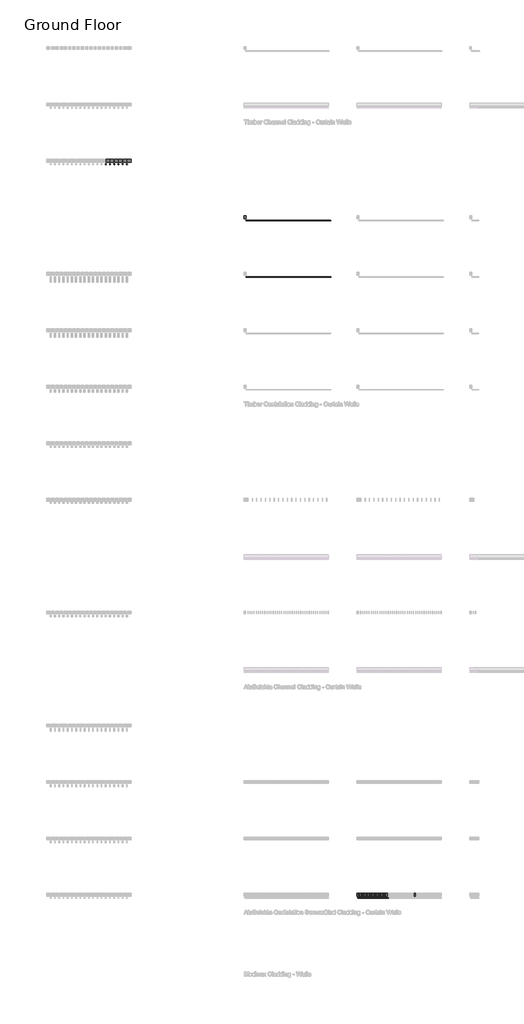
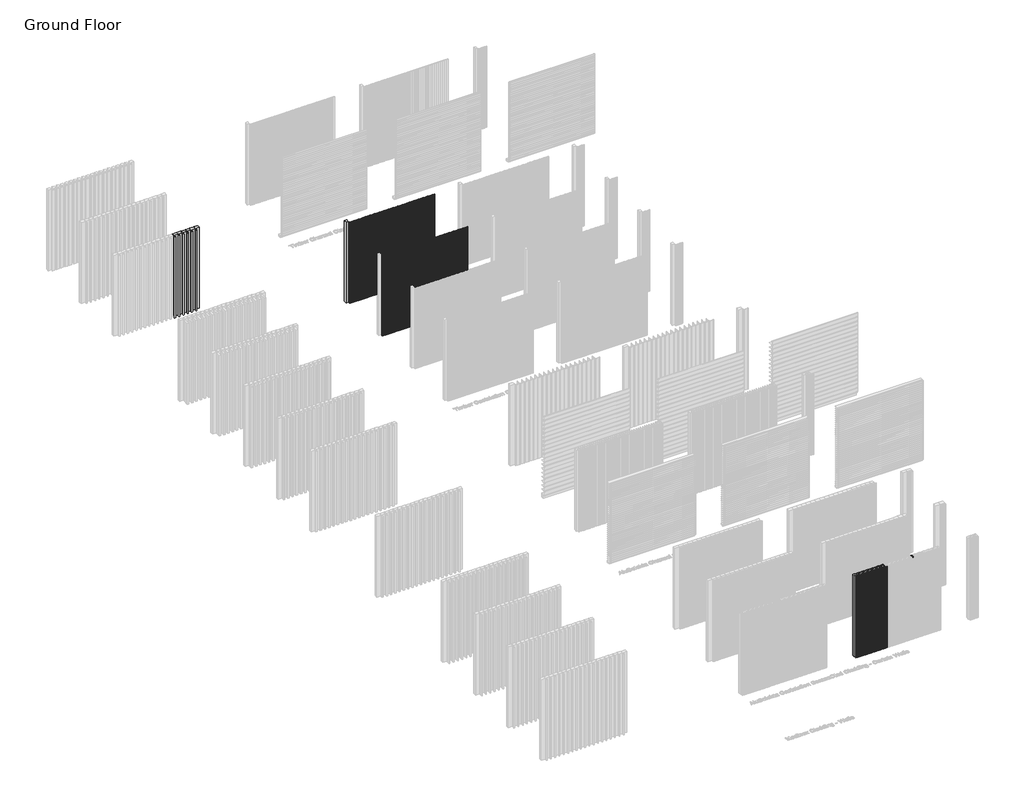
# One storey, part 23 of 350: 107 members, 35 plates.
"""IFC4 building model written with IfcOpenShell, lengths in millimetres."""

from ifc_helpers import new_model, si_unit, origin, place, context, project, spatial, transform, mapped, element, save
from components import rectangular_mullion_d8d867ca, rectangular_mullion_4c3290df, rectangular_mullion_624eee80, rectangular_mullion_eca9a012, empty_system_panel_empty_a9f5b765, empty_system_panel_empty_5da2f048, empty_system_panel_empty_d822e783, empty_system_panel_empty_086c6263, empty_system_panel_empty_cbd4e42b

model = new_model("IFC4")

# Units and contexts
model_context = context("Model", 3, world=origin())
ifc_project = project(units=[si_unit("LENGTHUNIT", "METRE", prefix="MILLI")], contexts=[model_context])

# Site, building, storey
site = spatial("IfcSite", under=ifc_project)
building = spatial("IfcBuilding", under=site)
storey = spatial("IfcBuildingStorey", under=building, Name="Ground Floor", Elevation=0.0)

# Members
placement = place(None, origin())
rectangular_mullion_shape = rectangular_mullion_d8d867ca(model_context)
element("IfcMember", 1, ObjectType="Rectangular Mullion : Batten_Aluminium_Modinex_Austratus_Linear_Dowel_WhiteOak", at=placement, inside=storey, context=model_context, shape_type="MappedRepresentation", body=[
    mapped(rectangular_mullion_shape, transform((24016.4361642, 30968.2978302, 0.0), x_axis=(1.0, 0.0, 0.0), y_axis=(0.0, -1.0, 0.0), z_axis=(0.0, 0.0, -1.0))),
])
element("IfcMember", 2, ObjectType="Rectangular Mullion : Batten_Aluminium_Modinex_Austratus_Linear_Dowel_WhiteOak", at=placement, inside=storey, context=model_context, shape_type="MappedRepresentation", body=[
    mapped(rectangular_mullion_shape, transform((24166.4361642, 30968.2978302, 0.0), x_axis=(1.0, 0.0, 0.0), y_axis=(0.0, -1.0, 0.0), z_axis=(0.0, 0.0, -1.0))),
])
element("IfcMember", 3, ObjectType="Rectangular Mullion : Batten_Aluminium_Modinex_Austratus_Linear_Dowel_WhiteOak", at=placement, inside=storey, context=model_context, shape_type="MappedRepresentation", body=[
    mapped(rectangular_mullion_shape, transform((24316.4361642, 30968.2978302, 0.0), x_axis=(1.0, 0.0, 0.0), y_axis=(0.0, -1.0, 0.0), z_axis=(0.0, 0.0, -1.0))),
])
element("IfcMember", 4, ObjectType="Rectangular Mullion : Batten_Aluminium_Modinex_Austratus_Linear_Dowel_WhiteOak", at=placement, inside=storey, context=model_context, shape_type="MappedRepresentation", body=[
    mapped(rectangular_mullion_shape, transform((24466.4361642, 30968.2978302, 0.0), x_axis=(1.0, 0.0, 0.0), y_axis=(0.0, -1.0, 0.0), z_axis=(0.0, 0.0, -1.0))),
])
element("IfcMember", 5, ObjectType="Rectangular Mullion : Batten_Aluminium_Modinex_Austratus_Linear_Dowel_WhiteOak", at=placement, inside=storey, context=model_context, shape_type="MappedRepresentation", body=[
    mapped(rectangular_mullion_shape, transform((24616.4361642, 30968.2978302, 0.0), x_axis=(1.0, 0.0, 0.0), y_axis=(0.0, -1.0, 0.0), z_axis=(0.0, 0.0, -1.0))),
])
element("IfcMember", 6, ObjectType="Rectangular Mullion : Batten_Aluminium_Modinex_Austratus_Linear_Dowel_WhiteOak", at=placement, inside=storey, context=model_context, shape_type="MappedRepresentation", body=[
    mapped(rectangular_mullion_shape, transform((24766.4361642, 30968.2978302, 0.0), x_axis=(1.0, 0.0, 0.0), y_axis=(0.0, -1.0, 0.0), z_axis=(0.0, 0.0, -1.0))),
])
rectangular_mullion_2_shape = rectangular_mullion_4c3290df(model_context)
element("IfcMember", 7, ObjectType="Rectangular Mullion : Cladding_Aluminium_Modinex_AluSelekta_Castelation_ScreenClad_40_Cedar", at=placement, inside=storey, context=model_context, shape_type="MappedRepresentation", body=[
    mapped(rectangular_mullion_2_shape, transform((33996.4361642, 4968.2978302, 0.0), x_axis=(1.0, 0.0, 0.0), y_axis=(0.0, -1.0, 0.0), z_axis=(0.0, 0.0, -1.0))),
])
element("IfcMember", 8, ObjectType="Rectangular Mullion : Cladding_Aluminium_Modinex_AluSelekta_Castelation_ScreenClad_40_Cedar", at=placement, inside=storey, context=model_context, shape_type="MappedRepresentation", body=[
    mapped(rectangular_mullion_2_shape, transform((33956.4361642, 4968.2978302, 0.0), x_axis=(1.0, 0.0, 0.0), y_axis=(0.0, -1.0, 0.0), z_axis=(0.0, 0.0, -1.0))),
])
element("IfcMember", 9, ObjectType="Rectangular Mullion : Cladding_Aluminium_Modinex_AluSelekta_Castelation_ScreenClad_40_Cedar", at=placement, inside=storey, context=model_context, shape_type="MappedRepresentation", body=[
    mapped(rectangular_mullion_2_shape, transform((33916.4361642, 4968.2978302, 0.0), x_axis=(1.0, 0.0, 0.0), y_axis=(0.0, -1.0, 0.0), z_axis=(0.0, 0.0, -1.0))),
])
element("IfcMember", 10, ObjectType="Rectangular Mullion : Cladding_Aluminium_Modinex_AluSelekta_Castelation_ScreenClad_40_Cedar", at=placement, inside=storey, context=model_context, shape_type="MappedRepresentation", body=[
    mapped(rectangular_mullion_2_shape, transform((33876.4361642, 4968.2978302, 0.0), x_axis=(1.0, 0.0, 0.0), y_axis=(0.0, -1.0, 0.0), z_axis=(0.0, 0.0, -1.0))),
])
element("IfcMember", 11, ObjectType="Rectangular Mullion : Cladding_Aluminium_Modinex_AluSelekta_Castelation_ScreenClad_40_Cedar", at=placement, inside=storey, context=model_context, shape_type="MappedRepresentation", body=[
    mapped(rectangular_mullion_2_shape, transform((33836.4361642, 4968.2978302, 0.0), x_axis=(1.0, 0.0, 0.0), y_axis=(0.0, -1.0, 0.0), z_axis=(0.0, 0.0, -1.0))),
])
element("IfcMember", 12, ObjectType="Rectangular Mullion : Cladding_Aluminium_Modinex_AluSelekta_Castelation_ScreenClad_40_Cedar", at=placement, inside=storey, context=model_context, shape_type="MappedRepresentation", body=[
    mapped(rectangular_mullion_2_shape, transform((33796.4361642, 4968.2978302, 0.0), x_axis=(1.0, 0.0, 0.0), y_axis=(0.0, -1.0, 0.0), z_axis=(0.0, 0.0, -1.0))),
])
element("IfcMember", 13, ObjectType="Rectangular Mullion : Cladding_Aluminium_Modinex_AluSelekta_Castelation_ScreenClad_40_Cedar", at=placement, inside=storey, context=model_context, shape_type="MappedRepresentation", body=[
    mapped(rectangular_mullion_2_shape, transform((33756.4361642, 4968.2978302, 0.0), x_axis=(1.0, 0.0, 0.0), y_axis=(0.0, -1.0, 0.0), z_axis=(0.0, 0.0, -1.0))),
])
element("IfcMember", 14, ObjectType="Rectangular Mullion : Cladding_Aluminium_Modinex_AluSelekta_Castelation_ScreenClad_40_Cedar", at=placement, inside=storey, context=model_context, shape_type="MappedRepresentation", body=[
    mapped(rectangular_mullion_2_shape, transform((33716.4361642, 4968.2978302, 0.0), x_axis=(1.0, 0.0, 0.0), y_axis=(0.0, -1.0, 0.0), z_axis=(0.0, 0.0, -1.0))),
])
element("IfcMember", 15, ObjectType="Rectangular Mullion : Cladding_Aluminium_Modinex_AluSelekta_Castelation_ScreenClad_40_Cedar", at=placement, inside=storey, context=model_context, shape_type="MappedRepresentation", body=[
    mapped(rectangular_mullion_2_shape, transform((33676.4361642, 4968.2978302, 0.0), x_axis=(1.0, 0.0, 0.0), y_axis=(0.0, -1.0, 0.0), z_axis=(0.0, 0.0, -1.0))),
])
element("IfcMember", 16, ObjectType="Rectangular Mullion : Cladding_Aluminium_Modinex_AluSelekta_Castelation_ScreenClad_40_Cedar", at=placement, inside=storey, context=model_context, shape_type="MappedRepresentation", body=[
    mapped(rectangular_mullion_2_shape, transform((33636.4361642, 4968.2978302, 0.0), x_axis=(1.0, 0.0, 0.0), y_axis=(0.0, -1.0, 0.0), z_axis=(0.0, 0.0, -1.0))),
])
element("IfcMember", 17, ObjectType="Rectangular Mullion : Cladding_Aluminium_Modinex_AluSelekta_Castelation_ScreenClad_40_Cedar", at=placement, inside=storey, context=model_context, shape_type="MappedRepresentation", body=[
    mapped(rectangular_mullion_2_shape, transform((33596.4361642, 4968.2978302, 0.0), x_axis=(1.0, 0.0, 0.0), y_axis=(0.0, -1.0, 0.0), z_axis=(0.0, 0.0, -1.0))),
])
element("IfcMember", 18, ObjectType="Rectangular Mullion : Cladding_Aluminium_Modinex_AluSelekta_Castelation_ScreenClad_40_Cedar", at=placement, inside=storey, context=model_context, shape_type="MappedRepresentation", body=[
    mapped(rectangular_mullion_2_shape, transform((33556.4361642, 4968.2978302, 0.0), x_axis=(1.0, 0.0, 0.0), y_axis=(0.0, -1.0, 0.0), z_axis=(0.0, 0.0, -1.0))),
])
element("IfcMember", 19, ObjectType="Rectangular Mullion : Cladding_Aluminium_Modinex_AluSelekta_Castelation_ScreenClad_40_Cedar", at=placement, inside=storey, context=model_context, shape_type="MappedRepresentation", body=[
    mapped(rectangular_mullion_2_shape, transform((33516.4361642, 4968.2978302, 0.0), x_axis=(1.0, 0.0, 0.0), y_axis=(0.0, -1.0, 0.0), z_axis=(0.0, 0.0, -1.0))),
])
element("IfcMember", 20, ObjectType="Rectangular Mullion : Cladding_Aluminium_Modinex_AluSelekta_Castelation_ScreenClad_40_Cedar", at=placement, inside=storey, context=model_context, shape_type="MappedRepresentation", body=[
    mapped(rectangular_mullion_2_shape, transform((33476.4361642, 4968.2978302, 0.0), x_axis=(1.0, 0.0, 0.0), y_axis=(0.0, -1.0, 0.0), z_axis=(0.0, 0.0, -1.0))),
])
element("IfcMember", 21, ObjectType="Rectangular Mullion : Cladding_Aluminium_Modinex_AluSelekta_Castelation_ScreenClad_40_Cedar", at=placement, inside=storey, context=model_context, shape_type="MappedRepresentation", body=[
    mapped(rectangular_mullion_2_shape, transform((33436.4361642, 4968.2978302, 0.0), x_axis=(1.0, 0.0, 0.0), y_axis=(0.0, -1.0, 0.0), z_axis=(0.0, 0.0, -1.0))),
])
element("IfcMember", 22, ObjectType="Rectangular Mullion : Cladding_Aluminium_Modinex_AluSelekta_Castelation_ScreenClad_40_Cedar", at=placement, inside=storey, context=model_context, shape_type="MappedRepresentation", body=[
    mapped(rectangular_mullion_2_shape, transform((33396.4361642, 4968.2978302, 0.0), x_axis=(1.0, 0.0, 0.0), y_axis=(0.0, -1.0, 0.0), z_axis=(0.0, 0.0, -1.0))),
])
element("IfcMember", 23, ObjectType="Rectangular Mullion : Cladding_Aluminium_Modinex_AluSelekta_Castelation_ScreenClad_40_Cedar", at=placement, inside=storey, context=model_context, shape_type="MappedRepresentation", body=[
    mapped(rectangular_mullion_2_shape, transform((33356.4361642, 4968.2978302, 0.0), x_axis=(1.0, 0.0, 0.0), y_axis=(0.0, -1.0, 0.0), z_axis=(0.0, 0.0, -1.0))),
])
element("IfcMember", 24, ObjectType="Rectangular Mullion : Cladding_Aluminium_Modinex_AluSelekta_Castelation_ScreenClad_40_Cedar", at=placement, inside=storey, context=model_context, shape_type="MappedRepresentation", body=[
    mapped(rectangular_mullion_2_shape, transform((33316.4361642, 4968.2978302, 0.0), x_axis=(1.0, 0.0, 0.0), y_axis=(0.0, -1.0, 0.0), z_axis=(0.0, 0.0, -1.0))),
])
element("IfcMember", 25, ObjectType="Rectangular Mullion : Cladding_Aluminium_Modinex_AluSelekta_Castelation_ScreenClad_40_Cedar", at=placement, inside=storey, context=model_context, shape_type="MappedRepresentation", body=[
    mapped(rectangular_mullion_2_shape, transform((33276.4361642, 4968.2978302, 0.0), x_axis=(1.0, 0.0, 0.0), y_axis=(0.0, -1.0, 0.0), z_axis=(0.0, 0.0, -1.0))),
])
element("IfcMember", 26, ObjectType="Rectangular Mullion : Cladding_Aluminium_Modinex_AluSelekta_Castelation_ScreenClad_40_Cedar", at=placement, inside=storey, context=model_context, shape_type="MappedRepresentation", body=[
    mapped(rectangular_mullion_2_shape, transform((33236.4361642, 4968.2978302, 0.0), x_axis=(1.0, 0.0, 0.0), y_axis=(0.0, -1.0, 0.0), z_axis=(0.0, 0.0, -1.0))),
])
element("IfcMember", 27, ObjectType="Rectangular Mullion : Cladding_Aluminium_Modinex_AluSelekta_Castelation_ScreenClad_40_Cedar", at=placement, inside=storey, context=model_context, shape_type="MappedRepresentation", body=[
    mapped(rectangular_mullion_2_shape, transform((33196.4361642, 4968.2978302, 0.0), x_axis=(1.0, 0.0, 0.0), y_axis=(0.0, -1.0, 0.0), z_axis=(0.0, 0.0, -1.0))),
])
element("IfcMember", 28, ObjectType="Rectangular Mullion : Cladding_Aluminium_Modinex_AluSelekta_Castelation_ScreenClad_40_Cedar", at=placement, inside=storey, context=model_context, shape_type="MappedRepresentation", body=[
    mapped(rectangular_mullion_2_shape, transform((33156.4361642, 4968.2978302, 0.0), x_axis=(1.0, 0.0, 0.0), y_axis=(0.0, -1.0, 0.0), z_axis=(0.0, 0.0, -1.0))),
])
element("IfcMember", 29, ObjectType="Rectangular Mullion : Cladding_Aluminium_Modinex_AluSelekta_Castelation_ScreenClad_40_Cedar", at=placement, inside=storey, context=model_context, shape_type="MappedRepresentation", body=[
    mapped(rectangular_mullion_2_shape, transform((33116.4361642, 4968.2978302, 0.0), x_axis=(1.0, 0.0, 0.0), y_axis=(0.0, -1.0, 0.0), z_axis=(0.0, 0.0, -1.0))),
])
element("IfcMember", 30, ObjectType="Rectangular Mullion : Cladding_Aluminium_Modinex_AluSelekta_Castelation_ScreenClad_40_Cedar", at=placement, inside=storey, context=model_context, shape_type="MappedRepresentation", body=[
    mapped(rectangular_mullion_2_shape, transform((33076.4361642, 4968.2978302, 0.0), x_axis=(1.0, 0.0, 0.0), y_axis=(0.0, -1.0, 0.0), z_axis=(0.0, 0.0, -1.0))),
])
element("IfcMember", 31, ObjectType="Rectangular Mullion : Cladding_Aluminium_Modinex_AluSelekta_Castelation_ScreenClad_40_Cedar", at=placement, inside=storey, context=model_context, shape_type="MappedRepresentation", body=[
    mapped(rectangular_mullion_2_shape, transform((33036.4361642, 4968.2978302, 0.0), x_axis=(1.0, 0.0, 0.0), y_axis=(0.0, -1.0, 0.0), z_axis=(0.0, 0.0, -1.0))),
])
element("IfcMember", 32, ObjectType="Rectangular Mullion : Cladding_Aluminium_Modinex_AluSelekta_Castelation_ScreenClad_40_Cedar", at=placement, inside=storey, context=model_context, shape_type="MappedRepresentation", body=[
    mapped(rectangular_mullion_2_shape, transform((32996.4361642, 4968.2978302, 0.0), x_axis=(1.0, 0.0, 0.0), y_axis=(0.0, -1.0, 0.0), z_axis=(0.0, 0.0, -1.0))),
])
element("IfcMember", 33, ObjectType="Rectangular Mullion : Cladding_Aluminium_Modinex_AluSelekta_Castelation_ScreenClad_40_Cedar", at=placement, inside=storey, context=model_context, shape_type="MappedRepresentation", body=[
    mapped(rectangular_mullion_2_shape, transform((32956.4361642, 4968.2978302, 0.0), x_axis=(1.0, 0.0, 0.0), y_axis=(0.0, -1.0, 0.0), z_axis=(0.0, 0.0, -1.0))),
])
rectangular_mullion_3_shape = rectangular_mullion_624eee80(model_context)
element("IfcMember", 34, ObjectType="Rectangular Mullion : Cladding_Timber_Modinex_Castelation_81x21_AlaskanYellowCedar", at=placement, inside=storey, context=model_context, shape_type="MappedRepresentation", body=[
    mapped(rectangular_mullion_3_shape, transform((30536.4361642, 26968.2978302, 0.0), x_axis=(1.0, 0.0, 0.0), y_axis=(0.0, -1.0, 0.0), z_axis=(0.0, 0.0, -1.0))),
])
element("IfcMember", 35, ObjectType="Rectangular Mullion : Cladding_Timber_Modinex_Castelation_81x21_AlaskanYellowCedar", at=placement, inside=storey, context=model_context, shape_type="MappedRepresentation", body=[
    mapped(rectangular_mullion_3_shape, transform((30617.4361642, 26968.2978302, 0.0), x_axis=(1.0, 0.0, 0.0), y_axis=(0.0, -1.0, 0.0), z_axis=(0.0, 0.0, -1.0))),
])
element("IfcMember", 36, ObjectType="Rectangular Mullion : Cladding_Timber_Modinex_Castelation_81x21_AlaskanYellowCedar", at=placement, inside=storey, context=model_context, shape_type="MappedRepresentation", body=[
    mapped(rectangular_mullion_3_shape, transform((30698.4361642, 26968.2978302, 0.0), x_axis=(1.0, 0.0, 0.0), y_axis=(0.0, -1.0, 0.0), z_axis=(0.0, 0.0, -1.0))),
])
element("IfcMember", 37, ObjectType="Rectangular Mullion : Cladding_Timber_Modinex_Castelation_81x21_AlaskanYellowCedar", at=placement, inside=storey, context=model_context, shape_type="MappedRepresentation", body=[
    mapped(rectangular_mullion_3_shape, transform((30779.4361642, 26968.2978302, 0.0), x_axis=(1.0, 0.0, 0.0), y_axis=(0.0, -1.0, 0.0), z_axis=(0.0, 0.0, -1.0))),
])
element("IfcMember", 38, ObjectType="Rectangular Mullion : Cladding_Timber_Modinex_Castelation_81x21_AlaskanYellowCedar", at=placement, inside=storey, context=model_context, shape_type="MappedRepresentation", body=[
    mapped(rectangular_mullion_3_shape, transform((30860.4361642, 26968.2978302, 0.0), x_axis=(1.0, 0.0, 0.0), y_axis=(0.0, -1.0, 0.0), z_axis=(0.0, 0.0, -1.0))),
])
element("IfcMember", 39, ObjectType="Rectangular Mullion : Cladding_Timber_Modinex_Castelation_81x21_AlaskanYellowCedar", at=placement, inside=storey, context=model_context, shape_type="MappedRepresentation", body=[
    mapped(rectangular_mullion_3_shape, transform((30941.4361642, 26968.2978302, 0.0), x_axis=(1.0, 0.0, 0.0), y_axis=(0.0, -1.0, 0.0), z_axis=(0.0, 0.0, -1.0))),
])
element("IfcMember", 40, ObjectType="Rectangular Mullion : Cladding_Timber_Modinex_Castelation_81x21_AlaskanYellowCedar", at=placement, inside=storey, context=model_context, shape_type="MappedRepresentation", body=[
    mapped(rectangular_mullion_3_shape, transform((31022.4361642, 26968.2978302, 0.0), x_axis=(1.0, 0.0, 0.0), y_axis=(0.0, -1.0, 0.0), z_axis=(0.0, 0.0, -1.0))),
])
element("IfcMember", 41, ObjectType="Rectangular Mullion : Cladding_Timber_Modinex_Castelation_81x21_AlaskanYellowCedar", at=placement, inside=storey, context=model_context, shape_type="MappedRepresentation", body=[
    mapped(rectangular_mullion_3_shape, transform((31103.4361642, 26968.2978302, 0.0), x_axis=(1.0, 0.0, 0.0), y_axis=(0.0, -1.0, 0.0), z_axis=(0.0, 0.0, -1.0))),
])
element("IfcMember", 42, ObjectType="Rectangular Mullion : Cladding_Timber_Modinex_Castelation_81x21_AlaskanYellowCedar", at=placement, inside=storey, context=model_context, shape_type="MappedRepresentation", body=[
    mapped(rectangular_mullion_3_shape, transform((31184.4361642, 26968.2978302, 0.0), x_axis=(1.0, 0.0, 0.0), y_axis=(0.0, -1.0, 0.0), z_axis=(0.0, 0.0, -1.0))),
])
element("IfcMember", 43, ObjectType="Rectangular Mullion : Cladding_Timber_Modinex_Castelation_81x21_AlaskanYellowCedar", at=placement, inside=storey, context=model_context, shape_type="MappedRepresentation", body=[
    mapped(rectangular_mullion_3_shape, transform((31265.4361642, 26968.2978302, 0.0), x_axis=(1.0, 0.0, 0.0), y_axis=(0.0, -1.0, 0.0), z_axis=(0.0, 0.0, -1.0))),
])
element("IfcMember", 44, ObjectType="Rectangular Mullion : Cladding_Timber_Modinex_Castelation_81x21_AlaskanYellowCedar", at=placement, inside=storey, context=model_context, shape_type="MappedRepresentation", body=[
    mapped(rectangular_mullion_3_shape, transform((31346.4361642, 26968.2978302, 0.0), x_axis=(1.0, 0.0, 0.0), y_axis=(0.0, -1.0, 0.0), z_axis=(0.0, 0.0, -1.0))),
])
element("IfcMember", 45, ObjectType="Rectangular Mullion : Cladding_Timber_Modinex_Castelation_81x21_AlaskanYellowCedar", at=placement, inside=storey, context=model_context, shape_type="MappedRepresentation", body=[
    mapped(rectangular_mullion_3_shape, transform((31427.4361642, 26968.2978302, 0.0), x_axis=(1.0, 0.0, 0.0), y_axis=(0.0, -1.0, 0.0), z_axis=(0.0, 0.0, -1.0))),
])
element("IfcMember", 46, ObjectType="Rectangular Mullion : Cladding_Timber_Modinex_Castelation_81x21_AlaskanYellowCedar", at=placement, inside=storey, context=model_context, shape_type="MappedRepresentation", body=[
    mapped(rectangular_mullion_3_shape, transform((31508.4361642, 26968.2978302, 0.0), x_axis=(1.0, 0.0, 0.0), y_axis=(0.0, -1.0, 0.0), z_axis=(0.0, 0.0, -1.0))),
])
element("IfcMember", 47, ObjectType="Rectangular Mullion : Cladding_Timber_Modinex_Castelation_81x21_AlaskanYellowCedar", at=placement, inside=storey, context=model_context, shape_type="MappedRepresentation", body=[
    mapped(rectangular_mullion_3_shape, transform((31589.4361642, 26968.2978302, 0.0), x_axis=(1.0, 0.0, 0.0), y_axis=(0.0, -1.0, 0.0), z_axis=(0.0, 0.0, -1.0))),
])
element("IfcMember", 48, ObjectType="Rectangular Mullion : Cladding_Timber_Modinex_Castelation_81x21_AlaskanYellowCedar", at=placement, inside=storey, context=model_context, shape_type="MappedRepresentation", body=[
    mapped(rectangular_mullion_3_shape, transform((31670.4361642, 26968.2978302, 0.0), x_axis=(1.0, 0.0, 0.0), y_axis=(0.0, -1.0, 0.0), z_axis=(0.0, 0.0, -1.0))),
])
element("IfcMember", 49, ObjectType="Rectangular Mullion : Cladding_Timber_Modinex_Castelation_81x21_AlaskanYellowCedar", at=placement, inside=storey, context=model_context, shape_type="MappedRepresentation", body=[
    mapped(rectangular_mullion_3_shape, transform((31751.4361642, 26968.2978302, 0.0), x_axis=(1.0, 0.0, 0.0), y_axis=(0.0, -1.0, 0.0), z_axis=(0.0, 0.0, -1.0))),
])
element("IfcMember", 50, ObjectType="Rectangular Mullion : Cladding_Timber_Modinex_Castelation_81x21_AlaskanYellowCedar", at=placement, inside=storey, context=model_context, shape_type="MappedRepresentation", body=[
    mapped(rectangular_mullion_3_shape, transform((31832.4361642, 26968.2978302, 0.0), x_axis=(1.0, 0.0, 0.0), y_axis=(0.0, -1.0, 0.0), z_axis=(0.0, 0.0, -1.0))),
])
element("IfcMember", 51, ObjectType="Rectangular Mullion : Cladding_Timber_Modinex_Castelation_81x21_AlaskanYellowCedar", at=placement, inside=storey, context=model_context, shape_type="MappedRepresentation", body=[
    mapped(rectangular_mullion_3_shape, transform((31913.4361642, 26968.2978302, 0.0), x_axis=(1.0, 0.0, 0.0), y_axis=(0.0, -1.0, 0.0), z_axis=(0.0, 0.0, -1.0))),
])
element("IfcMember", 52, ObjectType="Rectangular Mullion : Cladding_Timber_Modinex_Castelation_81x21_AlaskanYellowCedar", at=placement, inside=storey, context=model_context, shape_type="MappedRepresentation", body=[
    mapped(rectangular_mullion_3_shape, transform((30455.4361642, 26968.2978302, 0.0), x_axis=(1.0, 0.0, 0.0), y_axis=(0.0, -1.0, 0.0), z_axis=(0.0, 0.0, -1.0))),
])
element("IfcMember", 53, ObjectType="Rectangular Mullion : Cladding_Timber_Modinex_Castelation_81x21_AlaskanYellowCedar", at=placement, inside=storey, context=model_context, shape_type="MappedRepresentation", body=[
    mapped(rectangular_mullion_3_shape, transform((30374.4361642, 26968.2978302, 0.0), x_axis=(1.0, 0.0, 0.0), y_axis=(0.0, -1.0, 0.0), z_axis=(0.0, 0.0, -1.0))),
])
element("IfcMember", 54, ObjectType="Rectangular Mullion : Cladding_Timber_Modinex_Castelation_81x21_AlaskanYellowCedar", at=placement, inside=storey, context=model_context, shape_type="MappedRepresentation", body=[
    mapped(rectangular_mullion_3_shape, transform((30293.4361642, 26968.2978302, 0.0), x_axis=(1.0, 0.0, 0.0), y_axis=(0.0, -1.0, 0.0), z_axis=(0.0, 0.0, -1.0))),
])
element("IfcMember", 55, ObjectType="Rectangular Mullion : Cladding_Timber_Modinex_Castelation_81x21_AlaskanYellowCedar", at=placement, inside=storey, context=model_context, shape_type="MappedRepresentation", body=[
    mapped(rectangular_mullion_3_shape, transform((30212.4361642, 26968.2978302, 0.0), x_axis=(1.0, 0.0, 0.0), y_axis=(0.0, -1.0, 0.0), z_axis=(0.0, 0.0, -1.0))),
])
element("IfcMember", 56, ObjectType="Rectangular Mullion : Cladding_Timber_Modinex_Castelation_81x21_AlaskanYellowCedar", at=placement, inside=storey, context=model_context, shape_type="MappedRepresentation", body=[
    mapped(rectangular_mullion_3_shape, transform((30131.4361642, 26968.2978302, 0.0), x_axis=(1.0, 0.0, 0.0), y_axis=(0.0, -1.0, 0.0), z_axis=(0.0, 0.0, -1.0))),
])
element("IfcMember", 57, ObjectType="Rectangular Mullion : Cladding_Timber_Modinex_Castelation_81x21_AlaskanYellowCedar", at=placement, inside=storey, context=model_context, shape_type="MappedRepresentation", body=[
    mapped(rectangular_mullion_3_shape, transform((30050.4361642, 26968.2978302, 0.0), x_axis=(1.0, 0.0, 0.0), y_axis=(0.0, -1.0, 0.0), z_axis=(0.0, 0.0, -1.0))),
])
element("IfcMember", 58, ObjectType="Rectangular Mullion : Cladding_Timber_Modinex_Castelation_81x21_AlaskanYellowCedar", at=placement, inside=storey, context=model_context, shape_type="MappedRepresentation", body=[
    mapped(rectangular_mullion_3_shape, transform((29969.4361642, 26968.2978302, 0.0), x_axis=(1.0, 0.0, 0.0), y_axis=(0.0, -1.0, 0.0), z_axis=(0.0, 0.0, -1.0))),
])
element("IfcMember", 59, ObjectType="Rectangular Mullion : Cladding_Timber_Modinex_Castelation_81x21_AlaskanYellowCedar", at=placement, inside=storey, context=model_context, shape_type="MappedRepresentation", body=[
    mapped(rectangular_mullion_3_shape, transform((29888.4361642, 26968.2978302, 0.0), x_axis=(1.0, 0.0, 0.0), y_axis=(0.0, -1.0, 0.0), z_axis=(0.0, 0.0, -1.0))),
])
element("IfcMember", 60, ObjectType="Rectangular Mullion : Cladding_Timber_Modinex_Castelation_81x21_AlaskanYellowCedar", at=placement, inside=storey, context=model_context, shape_type="MappedRepresentation", body=[
    mapped(rectangular_mullion_3_shape, transform((29807.4361642, 26968.2978302, 0.0), x_axis=(1.0, 0.0, 0.0), y_axis=(0.0, -1.0, 0.0), z_axis=(0.0, 0.0, -1.0))),
])
element("IfcMember", 61, ObjectType="Rectangular Mullion : Cladding_Timber_Modinex_Castelation_81x21_AlaskanYellowCedar", at=placement, inside=storey, context=model_context, shape_type="MappedRepresentation", body=[
    mapped(rectangular_mullion_3_shape, transform((29726.4361642, 26968.2978302, 0.0), x_axis=(1.0, 0.0, 0.0), y_axis=(0.0, -1.0, 0.0), z_axis=(0.0, 0.0, -1.0))),
])
element("IfcMember", 62, ObjectType="Rectangular Mullion : Cladding_Timber_Modinex_Castelation_81x21_AlaskanYellowCedar", at=placement, inside=storey, context=model_context, shape_type="MappedRepresentation", body=[
    mapped(rectangular_mullion_3_shape, transform((29645.4361642, 26968.2978302, 0.0), x_axis=(1.0, 0.0, 0.0), y_axis=(0.0, -1.0, 0.0), z_axis=(0.0, 0.0, -1.0))),
])
element("IfcMember", 63, ObjectType="Rectangular Mullion : Cladding_Timber_Modinex_Castelation_81x21_AlaskanYellowCedar", at=placement, inside=storey, context=model_context, shape_type="MappedRepresentation", body=[
    mapped(rectangular_mullion_3_shape, transform((29564.4361642, 26968.2978302, 0.0), x_axis=(1.0, 0.0, 0.0), y_axis=(0.0, -1.0, 0.0), z_axis=(0.0, 0.0, -1.0))),
])
element("IfcMember", 64, ObjectType="Rectangular Mullion : Cladding_Timber_Modinex_Castelation_81x21_AlaskanYellowCedar", at=placement, inside=storey, context=model_context, shape_type="MappedRepresentation", body=[
    mapped(rectangular_mullion_3_shape, transform((29483.4361642, 26968.2978302, 0.0), x_axis=(1.0, 0.0, 0.0), y_axis=(0.0, -1.0, 0.0), z_axis=(0.0, 0.0, -1.0))),
])
element("IfcMember", 65, ObjectType="Rectangular Mullion : Cladding_Timber_Modinex_Castelation_81x21_AlaskanYellowCedar", at=placement, inside=storey, context=model_context, shape_type="MappedRepresentation", body=[
    mapped(rectangular_mullion_3_shape, transform((29402.4361642, 26968.2978302, 0.0), x_axis=(1.0, 0.0, 0.0), y_axis=(0.0, -1.0, 0.0), z_axis=(0.0, 0.0, -1.0))),
])
element("IfcMember", 66, ObjectType="Rectangular Mullion : Cladding_Timber_Modinex_Castelation_81x21_AlaskanYellowCedar", at=placement, inside=storey, context=model_context, shape_type="MappedRepresentation", body=[
    mapped(rectangular_mullion_3_shape, transform((29321.4361642, 26968.2978302, 0.0), x_axis=(1.0, 0.0, 0.0), y_axis=(0.0, -1.0, 0.0), z_axis=(0.0, 0.0, -1.0))),
])
element("IfcMember", 67, ObjectType="Rectangular Mullion : Cladding_Timber_Modinex_Castelation_81x21_AlaskanYellowCedar", at=placement, inside=storey, context=model_context, shape_type="MappedRepresentation", body=[
    mapped(rectangular_mullion_3_shape, transform((29240.4361642, 26968.2978302, 0.0), x_axis=(1.0, 0.0, 0.0), y_axis=(0.0, -1.0, 0.0), z_axis=(0.0, 0.0, -1.0))),
])
element("IfcMember", 68, ObjectType="Rectangular Mullion : Cladding_Timber_Modinex_Castelation_81x21_AlaskanYellowCedar", at=placement, inside=storey, context=model_context, shape_type="MappedRepresentation", body=[
    mapped(rectangular_mullion_3_shape, transform((29159.4361642, 26968.2978302, 0.0), x_axis=(1.0, 0.0, 0.0), y_axis=(0.0, -1.0, 0.0), z_axis=(0.0, 0.0, -1.0))),
])
element("IfcMember", 69, ObjectType="Rectangular Mullion : Cladding_Timber_Modinex_Castelation_81x21_AlaskanYellowCedar", at=placement, inside=storey, context=model_context, shape_type="MappedRepresentation", body=[
    mapped(rectangular_mullion_3_shape, transform((29078.4361642, 26968.2978302, 0.0), x_axis=(1.0, 0.0, 0.0), y_axis=(0.0, -1.0, 0.0), z_axis=(0.0, 0.0, -1.0))),
])
element("IfcMember", 70, ObjectType="Rectangular Mullion : Cladding_Timber_Modinex_Castelation_81x21_AlaskanYellowCedar", at=placement, inside=storey, context=model_context, shape_type="MappedRepresentation", body=[
    mapped(rectangular_mullion_3_shape, transform((28997.4361642, 26968.2978302, 0.0), x_axis=(1.0, 0.0, 0.0), y_axis=(0.0, -1.0, 0.0), z_axis=(0.0, 0.0, -1.0))),
])
rectangular_mullion_4_shape = rectangular_mullion_eca9a012(model_context)
element("IfcMember", 71, ObjectType="Rectangular Mullion : Cladding_Timber_Modinex_Castelation_81x26_AlaskanYellowCedar", at=placement, inside=storey, context=model_context, shape_type="MappedRepresentation", body=[
    mapped(rectangular_mullion_4_shape, transform((30536.4361642, 28968.2978302, 0.0), x_axis=(1.0, 0.0, 0.0), y_axis=(0.0, -1.0, 0.0), z_axis=(0.0, 0.0, -1.0))),
])
element("IfcMember", 72, ObjectType="Rectangular Mullion : Cladding_Timber_Modinex_Castelation_81x26_AlaskanYellowCedar", at=placement, inside=storey, context=model_context, shape_type="MappedRepresentation", body=[
    mapped(rectangular_mullion_4_shape, transform((30617.4361642, 28968.2978302, 0.0), x_axis=(1.0, 0.0, 0.0), y_axis=(0.0, -1.0, 0.0), z_axis=(0.0, 0.0, -1.0))),
])
element("IfcMember", 73, ObjectType="Rectangular Mullion : Cladding_Timber_Modinex_Castelation_81x26_AlaskanYellowCedar", at=placement, inside=storey, context=model_context, shape_type="MappedRepresentation", body=[
    mapped(rectangular_mullion_4_shape, transform((30698.4361642, 28968.2978302, 0.0), x_axis=(1.0, 0.0, 0.0), y_axis=(0.0, -1.0, 0.0), z_axis=(0.0, 0.0, -1.0))),
])
element("IfcMember", 74, ObjectType="Rectangular Mullion : Cladding_Timber_Modinex_Castelation_81x26_AlaskanYellowCedar", at=placement, inside=storey, context=model_context, shape_type="MappedRepresentation", body=[
    mapped(rectangular_mullion_4_shape, transform((30779.4361642, 28968.2978302, 0.0), x_axis=(1.0, 0.0, 0.0), y_axis=(0.0, -1.0, 0.0), z_axis=(0.0, 0.0, -1.0))),
])
element("IfcMember", 75, ObjectType="Rectangular Mullion : Cladding_Timber_Modinex_Castelation_81x26_AlaskanYellowCedar", at=placement, inside=storey, context=model_context, shape_type="MappedRepresentation", body=[
    mapped(rectangular_mullion_4_shape, transform((30860.4361642, 28968.2978302, 0.0), x_axis=(1.0, 0.0, 0.0), y_axis=(0.0, -1.0, 0.0), z_axis=(0.0, 0.0, -1.0))),
])
element("IfcMember", 76, ObjectType="Rectangular Mullion : Cladding_Timber_Modinex_Castelation_81x26_AlaskanYellowCedar", at=placement, inside=storey, context=model_context, shape_type="MappedRepresentation", body=[
    mapped(rectangular_mullion_4_shape, transform((30941.4361642, 28968.2978302, 0.0), x_axis=(1.0, 0.0, 0.0), y_axis=(0.0, -1.0, 0.0), z_axis=(0.0, 0.0, -1.0))),
])
element("IfcMember", 77, ObjectType="Rectangular Mullion : Cladding_Timber_Modinex_Castelation_81x26_AlaskanYellowCedar", at=placement, inside=storey, context=model_context, shape_type="MappedRepresentation", body=[
    mapped(rectangular_mullion_4_shape, transform((31022.4361642, 28968.2978302, 0.0), x_axis=(1.0, 0.0, 0.0), y_axis=(0.0, -1.0, 0.0), z_axis=(0.0, 0.0, -1.0))),
])
element("IfcMember", 78, ObjectType="Rectangular Mullion : Cladding_Timber_Modinex_Castelation_81x26_AlaskanYellowCedar", at=placement, inside=storey, context=model_context, shape_type="MappedRepresentation", body=[
    mapped(rectangular_mullion_4_shape, transform((31103.4361642, 28968.2978302, 0.0), x_axis=(1.0, 0.0, 0.0), y_axis=(0.0, -1.0, 0.0), z_axis=(0.0, 0.0, -1.0))),
])
element("IfcMember", 79, ObjectType="Rectangular Mullion : Cladding_Timber_Modinex_Castelation_81x26_AlaskanYellowCedar", at=placement, inside=storey, context=model_context, shape_type="MappedRepresentation", body=[
    mapped(rectangular_mullion_4_shape, transform((31184.4361642, 28968.2978302, 0.0), x_axis=(1.0, 0.0, 0.0), y_axis=(0.0, -1.0, 0.0), z_axis=(0.0, 0.0, -1.0))),
])
element("IfcMember", 80, ObjectType="Rectangular Mullion : Cladding_Timber_Modinex_Castelation_81x26_AlaskanYellowCedar", at=placement, inside=storey, context=model_context, shape_type="MappedRepresentation", body=[
    mapped(rectangular_mullion_4_shape, transform((31265.4361642, 28968.2978302, 0.0), x_axis=(1.0, 0.0, 0.0), y_axis=(0.0, -1.0, 0.0), z_axis=(0.0, 0.0, -1.0))),
])
element("IfcMember", 81, ObjectType="Rectangular Mullion : Cladding_Timber_Modinex_Castelation_81x26_AlaskanYellowCedar", at=placement, inside=storey, context=model_context, shape_type="MappedRepresentation", body=[
    mapped(rectangular_mullion_4_shape, transform((31346.4361642, 28968.2978302, 0.0), x_axis=(1.0, 0.0, 0.0), y_axis=(0.0, -1.0, 0.0), z_axis=(0.0, 0.0, -1.0))),
])
element("IfcMember", 82, ObjectType="Rectangular Mullion : Cladding_Timber_Modinex_Castelation_81x26_AlaskanYellowCedar", at=placement, inside=storey, context=model_context, shape_type="MappedRepresentation", body=[
    mapped(rectangular_mullion_4_shape, transform((31427.4361642, 28968.2978302, 0.0), x_axis=(1.0, 0.0, 0.0), y_axis=(0.0, -1.0, 0.0), z_axis=(0.0, 0.0, -1.0))),
])
element("IfcMember", 83, ObjectType="Rectangular Mullion : Cladding_Timber_Modinex_Castelation_81x26_AlaskanYellowCedar", at=placement, inside=storey, context=model_context, shape_type="MappedRepresentation", body=[
    mapped(rectangular_mullion_4_shape, transform((31508.4361642, 28968.2978302, 0.0), x_axis=(1.0, 0.0, 0.0), y_axis=(0.0, -1.0, 0.0), z_axis=(0.0, 0.0, -1.0))),
])
element("IfcMember", 84, ObjectType="Rectangular Mullion : Cladding_Timber_Modinex_Castelation_81x26_AlaskanYellowCedar", at=placement, inside=storey, context=model_context, shape_type="MappedRepresentation", body=[
    mapped(rectangular_mullion_4_shape, transform((31589.4361642, 28968.2978302, 0.0), x_axis=(1.0, 0.0, 0.0), y_axis=(0.0, -1.0, 0.0), z_axis=(0.0, 0.0, -1.0))),
])
element("IfcMember", 85, ObjectType="Rectangular Mullion : Cladding_Timber_Modinex_Castelation_81x26_AlaskanYellowCedar", at=placement, inside=storey, context=model_context, shape_type="MappedRepresentation", body=[
    mapped(rectangular_mullion_4_shape, transform((31670.4361642, 28968.2978302, 0.0), x_axis=(1.0, 0.0, 0.0), y_axis=(0.0, -1.0, 0.0), z_axis=(0.0, 0.0, -1.0))),
])
element("IfcMember", 86, ObjectType="Rectangular Mullion : Cladding_Timber_Modinex_Castelation_81x26_AlaskanYellowCedar", at=placement, inside=storey, context=model_context, shape_type="MappedRepresentation", body=[
    mapped(rectangular_mullion_4_shape, transform((31751.4361642, 28968.2978302, 0.0), x_axis=(1.0, 0.0, 0.0), y_axis=(0.0, -1.0, 0.0), z_axis=(0.0, 0.0, -1.0))),
])
element("IfcMember", 87, ObjectType="Rectangular Mullion : Cladding_Timber_Modinex_Castelation_81x26_AlaskanYellowCedar", at=placement, inside=storey, context=model_context, shape_type="MappedRepresentation", body=[
    mapped(rectangular_mullion_4_shape, transform((31832.4361642, 28968.2978302, 0.0), x_axis=(1.0, 0.0, 0.0), y_axis=(0.0, -1.0, 0.0), z_axis=(0.0, 0.0, -1.0))),
])
element("IfcMember", 88, ObjectType="Rectangular Mullion : Cladding_Timber_Modinex_Castelation_81x26_AlaskanYellowCedar", at=placement, inside=storey, context=model_context, shape_type="MappedRepresentation", body=[
    mapped(rectangular_mullion_4_shape, transform((31913.4361642, 28968.2978302, 0.0), x_axis=(1.0, 0.0, 0.0), y_axis=(0.0, -1.0, 0.0), z_axis=(0.0, 0.0, -1.0))),
])
element("IfcMember", 89, ObjectType="Rectangular Mullion : Cladding_Timber_Modinex_Castelation_81x26_AlaskanYellowCedar", at=placement, inside=storey, context=model_context, shape_type="MappedRepresentation", body=[
    mapped(rectangular_mullion_4_shape, transform((30455.4361642, 28968.2978302, 0.0), x_axis=(1.0, 0.0, 0.0), y_axis=(0.0, -1.0, 0.0), z_axis=(0.0, 0.0, -1.0))),
])
element("IfcMember", 90, ObjectType="Rectangular Mullion : Cladding_Timber_Modinex_Castelation_81x26_AlaskanYellowCedar", at=placement, inside=storey, context=model_context, shape_type="MappedRepresentation", body=[
    mapped(rectangular_mullion_4_shape, transform((30374.4361642, 28968.2978302, 0.0), x_axis=(1.0, 0.0, 0.0), y_axis=(0.0, -1.0, 0.0), z_axis=(0.0, 0.0, -1.0))),
])
element("IfcMember", 91, ObjectType="Rectangular Mullion : Cladding_Timber_Modinex_Castelation_81x26_AlaskanYellowCedar", at=placement, inside=storey, context=model_context, shape_type="MappedRepresentation", body=[
    mapped(rectangular_mullion_4_shape, transform((30293.4361642, 28968.2978302, 0.0), x_axis=(1.0, 0.0, 0.0), y_axis=(0.0, -1.0, 0.0), z_axis=(0.0, 0.0, -1.0))),
])
element("IfcMember", 92, ObjectType="Rectangular Mullion : Cladding_Timber_Modinex_Castelation_81x26_AlaskanYellowCedar", at=placement, inside=storey, context=model_context, shape_type="MappedRepresentation", body=[
    mapped(rectangular_mullion_4_shape, transform((30212.4361642, 28968.2978302, 0.0), x_axis=(1.0, 0.0, 0.0), y_axis=(0.0, -1.0, 0.0), z_axis=(0.0, 0.0, -1.0))),
])
element("IfcMember", 93, ObjectType="Rectangular Mullion : Cladding_Timber_Modinex_Castelation_81x26_AlaskanYellowCedar", at=placement, inside=storey, context=model_context, shape_type="MappedRepresentation", body=[
    mapped(rectangular_mullion_4_shape, transform((30131.4361642, 28968.2978302, 0.0), x_axis=(1.0, 0.0, 0.0), y_axis=(0.0, -1.0, 0.0), z_axis=(0.0, 0.0, -1.0))),
])
element("IfcMember", 94, ObjectType="Rectangular Mullion : Cladding_Timber_Modinex_Castelation_81x26_AlaskanYellowCedar", at=placement, inside=storey, context=model_context, shape_type="MappedRepresentation", body=[
    mapped(rectangular_mullion_4_shape, transform((30050.4361642, 28968.2978302, 0.0), x_axis=(1.0, 0.0, 0.0), y_axis=(0.0, -1.0, 0.0), z_axis=(0.0, 0.0, -1.0))),
])
element("IfcMember", 95, ObjectType="Rectangular Mullion : Cladding_Timber_Modinex_Castelation_81x26_AlaskanYellowCedar", at=placement, inside=storey, context=model_context, shape_type="MappedRepresentation", body=[
    mapped(rectangular_mullion_4_shape, transform((29969.4361642, 28968.2978302, 0.0), x_axis=(1.0, 0.0, 0.0), y_axis=(0.0, -1.0, 0.0), z_axis=(0.0, 0.0, -1.0))),
])
element("IfcMember", 96, ObjectType="Rectangular Mullion : Cladding_Timber_Modinex_Castelation_81x26_AlaskanYellowCedar", at=placement, inside=storey, context=model_context, shape_type="MappedRepresentation", body=[
    mapped(rectangular_mullion_4_shape, transform((29888.4361642, 28968.2978302, 0.0), x_axis=(1.0, 0.0, 0.0), y_axis=(0.0, -1.0, 0.0), z_axis=(0.0, 0.0, -1.0))),
])
element("IfcMember", 97, ObjectType="Rectangular Mullion : Cladding_Timber_Modinex_Castelation_81x26_AlaskanYellowCedar", at=placement, inside=storey, context=model_context, shape_type="MappedRepresentation", body=[
    mapped(rectangular_mullion_4_shape, transform((29807.4361642, 28968.2978302, 0.0), x_axis=(1.0, 0.0, 0.0), y_axis=(0.0, -1.0, 0.0), z_axis=(0.0, 0.0, -1.0))),
])
element("IfcMember", 98, ObjectType="Rectangular Mullion : Cladding_Timber_Modinex_Castelation_81x26_AlaskanYellowCedar", at=placement, inside=storey, context=model_context, shape_type="MappedRepresentation", body=[
    mapped(rectangular_mullion_4_shape, transform((29726.4361642, 28968.2978302, 0.0), x_axis=(1.0, 0.0, 0.0), y_axis=(0.0, -1.0, 0.0), z_axis=(0.0, 0.0, -1.0))),
])
element("IfcMember", 99, ObjectType="Rectangular Mullion : Cladding_Timber_Modinex_Castelation_81x26_AlaskanYellowCedar", at=placement, inside=storey, context=model_context, shape_type="MappedRepresentation", body=[
    mapped(rectangular_mullion_4_shape, transform((29645.4361642, 28968.2978302, 0.0), x_axis=(1.0, 0.0, 0.0), y_axis=(0.0, -1.0, 0.0), z_axis=(0.0, 0.0, -1.0))),
])
element("IfcMember", 100, ObjectType="Rectangular Mullion : Cladding_Timber_Modinex_Castelation_81x26_AlaskanYellowCedar", at=placement, inside=storey, context=model_context, shape_type="MappedRepresentation", body=[
    mapped(rectangular_mullion_4_shape, transform((29564.4361642, 28968.2978302, 0.0), x_axis=(1.0, 0.0, 0.0), y_axis=(0.0, -1.0, 0.0), z_axis=(0.0, 0.0, -1.0))),
])
element("IfcMember", 101, ObjectType="Rectangular Mullion : Cladding_Timber_Modinex_Castelation_81x26_AlaskanYellowCedar", at=placement, inside=storey, context=model_context, shape_type="MappedRepresentation", body=[
    mapped(rectangular_mullion_4_shape, transform((29483.4361642, 28968.2978302, 0.0), x_axis=(1.0, 0.0, 0.0), y_axis=(0.0, -1.0, 0.0), z_axis=(0.0, 0.0, -1.0))),
])
element("IfcMember", 102, ObjectType="Rectangular Mullion : Cladding_Timber_Modinex_Castelation_81x26_AlaskanYellowCedar", at=placement, inside=storey, context=model_context, shape_type="MappedRepresentation", body=[
    mapped(rectangular_mullion_4_shape, transform((29402.4361642, 28968.2978302, 0.0), x_axis=(1.0, 0.0, 0.0), y_axis=(0.0, -1.0, 0.0), z_axis=(0.0, 0.0, -1.0))),
])
element("IfcMember", 103, ObjectType="Rectangular Mullion : Cladding_Timber_Modinex_Castelation_81x26_AlaskanYellowCedar", at=placement, inside=storey, context=model_context, shape_type="MappedRepresentation", body=[
    mapped(rectangular_mullion_4_shape, transform((29321.4361642, 28968.2978302, 0.0), x_axis=(1.0, 0.0, 0.0), y_axis=(0.0, -1.0, 0.0), z_axis=(0.0, 0.0, -1.0))),
])
element("IfcMember", 104, ObjectType="Rectangular Mullion : Cladding_Timber_Modinex_Castelation_81x26_AlaskanYellowCedar", at=placement, inside=storey, context=model_context, shape_type="MappedRepresentation", body=[
    mapped(rectangular_mullion_4_shape, transform((29240.4361642, 28968.2978302, 0.0), x_axis=(1.0, 0.0, 0.0), y_axis=(0.0, -1.0, 0.0), z_axis=(0.0, 0.0, -1.0))),
])
element("IfcMember", 105, ObjectType="Rectangular Mullion : Cladding_Timber_Modinex_Castelation_81x26_AlaskanYellowCedar", at=placement, inside=storey, context=model_context, shape_type="MappedRepresentation", body=[
    mapped(rectangular_mullion_4_shape, transform((29159.4361642, 28968.2978302, 0.0), x_axis=(1.0, 0.0, 0.0), y_axis=(0.0, -1.0, 0.0), z_axis=(0.0, 0.0, -1.0))),
])
element("IfcMember", 106, ObjectType="Rectangular Mullion : Cladding_Timber_Modinex_Castelation_81x26_AlaskanYellowCedar", at=placement, inside=storey, context=model_context, shape_type="MappedRepresentation", body=[
    mapped(rectangular_mullion_4_shape, transform((29078.4361642, 28968.2978302, 0.0), x_axis=(1.0, 0.0, 0.0), y_axis=(0.0, -1.0, 0.0), z_axis=(0.0, 0.0, -1.0))),
])
element("IfcMember", 107, ObjectType="Rectangular Mullion : Cladding_Timber_Modinex_Castelation_81x26_AlaskanYellowCedar", at=placement, inside=storey, context=model_context, shape_type="MappedRepresentation", body=[
    mapped(rectangular_mullion_4_shape, transform((28997.4361642, 28968.2978302, 0.0), x_axis=(1.0, 0.0, 0.0), y_axis=(0.0, -1.0, 0.0), z_axis=(0.0, 0.0, -1.0))),
])

# Plates
empty_system_panel_empty_shape = empty_system_panel_empty_a9f5b765(model_context)
element("IfcPlate", 108, ObjectType="Empty System Panel : Empty", at=placement, inside=storey, context=model_context, shape_type="MappedRepresentation", body=[
    mapped(empty_system_panel_empty_shape, transform((24091.4361642, 30968.2978302, 0.0), x_axis=(1.0, 0.0, 0.0), y_axis=(0.0, 1.0, 0.0), z_axis=(0.0, 0.0, 1.0))),
])
element("IfcPlate", 109, ObjectType="Empty System Panel : Empty", at=placement, inside=storey, context=model_context, shape_type="MappedRepresentation", body=[
    mapped(empty_system_panel_empty_shape, transform((24241.4361642, 30968.2978302, 0.0), x_axis=(1.0, 0.0, 0.0), y_axis=(0.0, 1.0, 0.0), z_axis=(0.0, 0.0, 1.0))),
])
element("IfcPlate", 110, ObjectType="Empty System Panel : Empty", at=placement, inside=storey, context=model_context, shape_type="MappedRepresentation", body=[
    mapped(empty_system_panel_empty_shape, transform((24391.4361642, 30968.2978302, 0.0), x_axis=(1.0, 0.0, 0.0), y_axis=(0.0, 1.0, 0.0), z_axis=(0.0, 0.0, 1.0))),
])
element("IfcPlate", 111, ObjectType="Empty System Panel : Empty", at=placement, inside=storey, context=model_context, shape_type="MappedRepresentation", body=[
    mapped(empty_system_panel_empty_shape, transform((24541.4361642, 30968.2978302, 0.0), x_axis=(1.0, 0.0, 0.0), y_axis=(0.0, 1.0, 0.0), z_axis=(0.0, 0.0, 1.0))),
])
element("IfcPlate", 112, ObjectType="Empty System Panel : Empty", at=placement, inside=storey, context=model_context, shape_type="MappedRepresentation", body=[
    mapped(empty_system_panel_empty_shape, transform((24691.4361642, 30968.2978302, 0.0), x_axis=(1.0, 0.0, 0.0), y_axis=(0.0, 1.0, 0.0), z_axis=(0.0, 0.0, 1.0))),
])
empty_system_panel_empty_2_shape = empty_system_panel_empty_5da2f048(model_context)
element("IfcPlate", 113, ObjectType="Empty System Panel : Empty", at=placement, inside=storey, context=model_context, shape_type="MappedRepresentation", body=[
    mapped(empty_system_panel_empty_2_shape, transform((24847.1861641, 30968.2978302, 0.0), x_axis=(1.0, 0.0, 0.0), y_axis=(0.0, 1.0, 0.0), z_axis=(0.0, 0.0, 1.0))),
])
empty_system_panel_empty_3_shape = empty_system_panel_empty_d822e783(model_context)
element("IfcPlate", 114, ObjectType="Empty System Panel : Empty", at=placement, inside=storey, context=model_context, shape_type="MappedRepresentation", body=[
    mapped(empty_system_panel_empty_3_shape, transform((32936.4361641, 4968.2978302, 0.0), x_axis=(1.0, 0.0, 0.0), y_axis=(0.0, 1.0, 0.0), z_axis=(0.0, 0.0, 1.0))),
])
empty_system_panel_empty_4_shape = empty_system_panel_empty_086c6263(model_context)
element("IfcPlate", 115, ObjectType="Empty System Panel : Empty", at=placement, inside=storey, context=model_context, shape_type="MappedRepresentation", body=[
    mapped(empty_system_panel_empty_4_shape, transform((34976.4361642, 4968.2978302, 0.0), x_axis=(1.0, 0.0, 0.0), y_axis=(0.0, 1.0, 0.0), z_axis=(0.0, 0.0, 1.0))),
])
element("IfcPlate", 116, ObjectType="Empty System Panel : Empty", at=placement, inside=storey, context=model_context, shape_type="MappedRepresentation", body=[
    mapped(empty_system_panel_empty_4_shape, transform((33976.4361642, 4968.2978302, 0.0), x_axis=(1.0, 0.0, 0.0), y_axis=(0.0, 1.0, 0.0), z_axis=(0.0, 0.0, 1.0))),
])
element("IfcPlate", 117, ObjectType="Empty System Panel : Empty", at=placement, inside=storey, context=model_context, shape_type="MappedRepresentation", body=[
    mapped(empty_system_panel_empty_4_shape, transform((33936.4361642, 4968.2978302, 0.0), x_axis=(1.0, 0.0, 0.0), y_axis=(0.0, 1.0, 0.0), z_axis=(0.0, 0.0, 1.0))),
])
element("IfcPlate", 118, ObjectType="Empty System Panel : Empty", at=placement, inside=storey, context=model_context, shape_type="MappedRepresentation", body=[
    mapped(empty_system_panel_empty_4_shape, transform((33896.4361642, 4968.2978302, 0.0), x_axis=(1.0, 0.0, 0.0), y_axis=(0.0, 1.0, 0.0), z_axis=(0.0, 0.0, 1.0))),
])
element("IfcPlate", 119, ObjectType="Empty System Panel : Empty", at=placement, inside=storey, context=model_context, shape_type="MappedRepresentation", body=[
    mapped(empty_system_panel_empty_4_shape, transform((33856.4361642, 4968.2978302, 0.0), x_axis=(1.0, 0.0, 0.0), y_axis=(0.0, 1.0, 0.0), z_axis=(0.0, 0.0, 1.0))),
])
element("IfcPlate", 120, ObjectType="Empty System Panel : Empty", at=placement, inside=storey, context=model_context, shape_type="MappedRepresentation", body=[
    mapped(empty_system_panel_empty_4_shape, transform((33816.4361642, 4968.2978302, 0.0), x_axis=(1.0, 0.0, 0.0), y_axis=(0.0, 1.0, 0.0), z_axis=(0.0, 0.0, 1.0))),
])
element("IfcPlate", 121, ObjectType="Empty System Panel : Empty", at=placement, inside=storey, context=model_context, shape_type="MappedRepresentation", body=[
    mapped(empty_system_panel_empty_4_shape, transform((33776.4361642, 4968.2978302, 0.0), x_axis=(1.0, 0.0, 0.0), y_axis=(0.0, 1.0, 0.0), z_axis=(0.0, 0.0, 1.0))),
])
element("IfcPlate", 122, ObjectType="Empty System Panel : Empty", at=placement, inside=storey, context=model_context, shape_type="MappedRepresentation", body=[
    mapped(empty_system_panel_empty_4_shape, transform((33736.4361642, 4968.2978302, 0.0), x_axis=(1.0, 0.0, 0.0), y_axis=(0.0, 1.0, 0.0), z_axis=(0.0, 0.0, 1.0))),
])
element("IfcPlate", 123, ObjectType="Empty System Panel : Empty", at=placement, inside=storey, context=model_context, shape_type="MappedRepresentation", body=[
    mapped(empty_system_panel_empty_4_shape, transform((33696.4361642, 4968.2978302, 0.0), x_axis=(1.0, 0.0, 0.0), y_axis=(0.0, 1.0, 0.0), z_axis=(0.0, 0.0, 1.0))),
])
element("IfcPlate", 124, ObjectType="Empty System Panel : Empty", at=placement, inside=storey, context=model_context, shape_type="MappedRepresentation", body=[
    mapped(empty_system_panel_empty_4_shape, transform((33656.4361642, 4968.2978302, 0.0), x_axis=(1.0, 0.0, 0.0), y_axis=(0.0, 1.0, 0.0), z_axis=(0.0, 0.0, 1.0))),
])
element("IfcPlate", 125, ObjectType="Empty System Panel : Empty", at=placement, inside=storey, context=model_context, shape_type="MappedRepresentation", body=[
    mapped(empty_system_panel_empty_4_shape, transform((33616.4361642, 4968.2978302, 0.0), x_axis=(1.0, 0.0, 0.0), y_axis=(0.0, 1.0, 0.0), z_axis=(0.0, 0.0, 1.0))),
])
element("IfcPlate", 126, ObjectType="Empty System Panel : Empty", at=placement, inside=storey, context=model_context, shape_type="MappedRepresentation", body=[
    mapped(empty_system_panel_empty_4_shape, transform((33576.4361642, 4968.2978302, 0.0), x_axis=(1.0, 0.0, 0.0), y_axis=(0.0, 1.0, 0.0), z_axis=(0.0, 0.0, 1.0))),
])
element("IfcPlate", 127, ObjectType="Empty System Panel : Empty", at=placement, inside=storey, context=model_context, shape_type="MappedRepresentation", body=[
    mapped(empty_system_panel_empty_4_shape, transform((33536.4361642, 4968.2978302, 0.0), x_axis=(1.0, 0.0, 0.0), y_axis=(0.0, 1.0, 0.0), z_axis=(0.0, 0.0, 1.0))),
])
element("IfcPlate", 128, ObjectType="Empty System Panel : Empty", at=placement, inside=storey, context=model_context, shape_type="MappedRepresentation", body=[
    mapped(empty_system_panel_empty_4_shape, transform((33496.4361642, 4968.2978302, 0.0), x_axis=(1.0, 0.0, 0.0), y_axis=(0.0, 1.0, 0.0), z_axis=(0.0, 0.0, 1.0))),
])
element("IfcPlate", 129, ObjectType="Empty System Panel : Empty", at=placement, inside=storey, context=model_context, shape_type="MappedRepresentation", body=[
    mapped(empty_system_panel_empty_4_shape, transform((33456.4361642, 4968.2978302, 0.0), x_axis=(1.0, 0.0, 0.0), y_axis=(0.0, 1.0, 0.0), z_axis=(0.0, 0.0, 1.0))),
])
element("IfcPlate", 130, ObjectType="Empty System Panel : Empty", at=placement, inside=storey, context=model_context, shape_type="MappedRepresentation", body=[
    mapped(empty_system_panel_empty_4_shape, transform((33416.4361642, 4968.2978302, 0.0), x_axis=(1.0, 0.0, 0.0), y_axis=(0.0, 1.0, 0.0), z_axis=(0.0, 0.0, 1.0))),
])
element("IfcPlate", 131, ObjectType="Empty System Panel : Empty", at=placement, inside=storey, context=model_context, shape_type="MappedRepresentation", body=[
    mapped(empty_system_panel_empty_4_shape, transform((33376.4361642, 4968.2978302, 0.0), x_axis=(1.0, 0.0, 0.0), y_axis=(0.0, 1.0, 0.0), z_axis=(0.0, 0.0, 1.0))),
])
element("IfcPlate", 132, ObjectType="Empty System Panel : Empty", at=placement, inside=storey, context=model_context, shape_type="MappedRepresentation", body=[
    mapped(empty_system_panel_empty_4_shape, transform((33336.4361642, 4968.2978302, 0.0), x_axis=(1.0, 0.0, 0.0), y_axis=(0.0, 1.0, 0.0), z_axis=(0.0, 0.0, 1.0))),
])
element("IfcPlate", 133, ObjectType="Empty System Panel : Empty", at=placement, inside=storey, context=model_context, shape_type="MappedRepresentation", body=[
    mapped(empty_system_panel_empty_4_shape, transform((33296.4361642, 4968.2978302, 0.0), x_axis=(1.0, 0.0, 0.0), y_axis=(0.0, 1.0, 0.0), z_axis=(0.0, 0.0, 1.0))),
])
element("IfcPlate", 134, ObjectType="Empty System Panel : Empty", at=placement, inside=storey, context=model_context, shape_type="MappedRepresentation", body=[
    mapped(empty_system_panel_empty_4_shape, transform((33256.4361642, 4968.2978302, 0.0), x_axis=(1.0, 0.0, 0.0), y_axis=(0.0, 1.0, 0.0), z_axis=(0.0, 0.0, 1.0))),
])
element("IfcPlate", 135, ObjectType="Empty System Panel : Empty", at=placement, inside=storey, context=model_context, shape_type="MappedRepresentation", body=[
    mapped(empty_system_panel_empty_4_shape, transform((33216.4361642, 4968.2978302, 0.0), x_axis=(1.0, 0.0, 0.0), y_axis=(0.0, 1.0, 0.0), z_axis=(0.0, 0.0, 1.0))),
])
element("IfcPlate", 136, ObjectType="Empty System Panel : Empty", at=placement, inside=storey, context=model_context, shape_type="MappedRepresentation", body=[
    mapped(empty_system_panel_empty_4_shape, transform((33176.4361642, 4968.2978302, 0.0), x_axis=(1.0, 0.0, 0.0), y_axis=(0.0, 1.0, 0.0), z_axis=(0.0, 0.0, 1.0))),
])
element("IfcPlate", 137, ObjectType="Empty System Panel : Empty", at=placement, inside=storey, context=model_context, shape_type="MappedRepresentation", body=[
    mapped(empty_system_panel_empty_4_shape, transform((33136.4361642, 4968.2978302, 0.0), x_axis=(1.0, 0.0, 0.0), y_axis=(0.0, 1.0, 0.0), z_axis=(0.0, 0.0, 1.0))),
])
element("IfcPlate", 138, ObjectType="Empty System Panel : Empty", at=placement, inside=storey, context=model_context, shape_type="MappedRepresentation", body=[
    mapped(empty_system_panel_empty_4_shape, transform((33096.4361642, 4968.2978302, 0.0), x_axis=(1.0, 0.0, 0.0), y_axis=(0.0, 1.0, 0.0), z_axis=(0.0, 0.0, 1.0))),
])
element("IfcPlate", 139, ObjectType="Empty System Panel : Empty", at=placement, inside=storey, context=model_context, shape_type="MappedRepresentation", body=[
    mapped(empty_system_panel_empty_4_shape, transform((33056.4361642, 4968.2978302, 0.0), x_axis=(1.0, 0.0, 0.0), y_axis=(0.0, 1.0, 0.0), z_axis=(0.0, 0.0, 1.0))),
])
element("IfcPlate", 140, ObjectType="Empty System Panel : Empty", at=placement, inside=storey, context=model_context, shape_type="MappedRepresentation", body=[
    mapped(empty_system_panel_empty_4_shape, transform((33016.4361642, 4968.2978302, 0.0), x_axis=(1.0, 0.0, 0.0), y_axis=(0.0, 1.0, 0.0), z_axis=(0.0, 0.0, 1.0))),
])
element("IfcPlate", 141, ObjectType="Empty System Panel : Empty", at=placement, inside=storey, context=model_context, shape_type="MappedRepresentation", body=[
    mapped(empty_system_panel_empty_4_shape, transform((32976.4361642, 4968.2978302, 0.0), x_axis=(1.0, 0.0, 0.0), y_axis=(0.0, 1.0, 0.0), z_axis=(0.0, 0.0, 1.0))),
])
empty_system_panel_empty_5_shape = empty_system_panel_empty_cbd4e42b(model_context)
element("IfcPlate", 142, ObjectType="Empty System Panel : Empty", at=placement, inside=storey, context=model_context, shape_type="MappedRepresentation", body=[
    mapped(empty_system_panel_empty_5_shape, transform((28954.4602384, 28968.2978302, 0.0), x_axis=(1.0, 0.0, 0.0), y_axis=(0.0, 1.0, 0.0), z_axis=(0.0, 0.0, 1.0))),
])

save(model, "model.ifc")
